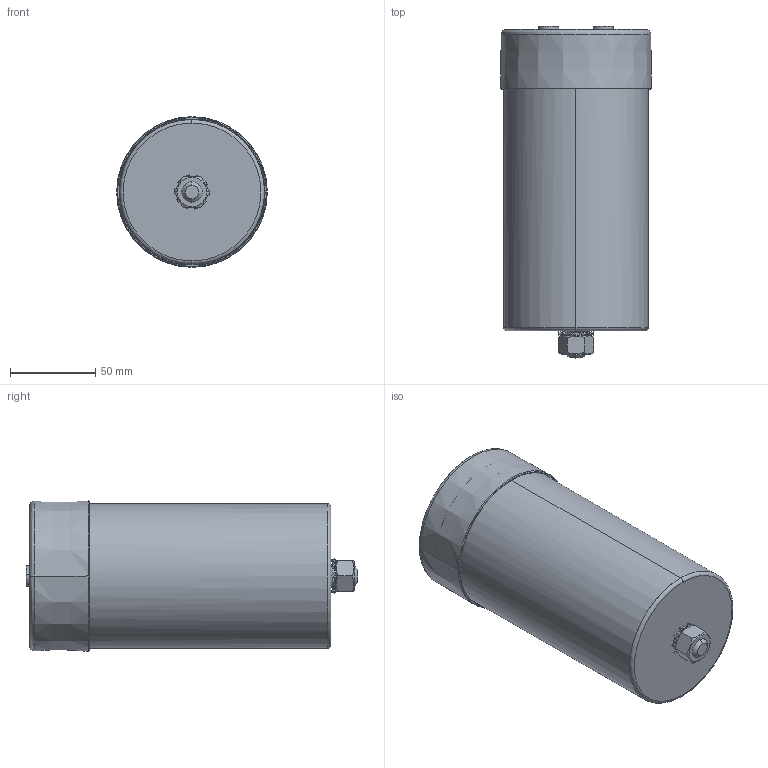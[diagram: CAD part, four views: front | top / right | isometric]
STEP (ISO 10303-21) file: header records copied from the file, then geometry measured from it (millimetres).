
FILE_DESCRIPTION (( 'STEP AP203' ), '1' );
FILE_NAME ('B25620Cx_85x177_179.STEP', '2021-07-01T03:05:47', ( '' ), ( '' ), 'SwSTEP 2.0', 'SolidWorks 2017', '' );
FILE_SCHEMA (( 'CONFIG_CONTROL_DESIGN' ));
Length unit declared in the file: millimetre
Products named in the file (1): B25620Cx_85x177_179
Bounding box: 88.5 x 195 x 88.5 mm (x, y, z)
Volume: 85444.3 mm3; surface area: 143412 mm2
Topology: 4 solids, 7 shells, 401 faces, 1027 edges, 642 vertices
Faces by surface type: bspline 124, cylinder 114, plane 97, cone 52, torus 14
Entity records: 15845 total; most frequent: CARTESIAN_POINT 6858, ORIENTED_EDGE 2026, DIRECTION 1621, EDGE_CURVE 1013, VERTEX_POINT 642, AXIS2_PLACEMENT_3D 642, EDGE_LOOP 443, FACE_OUTER_BOUND 401
